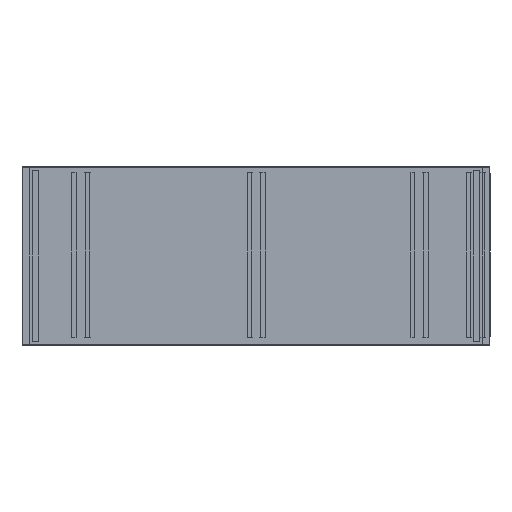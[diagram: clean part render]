
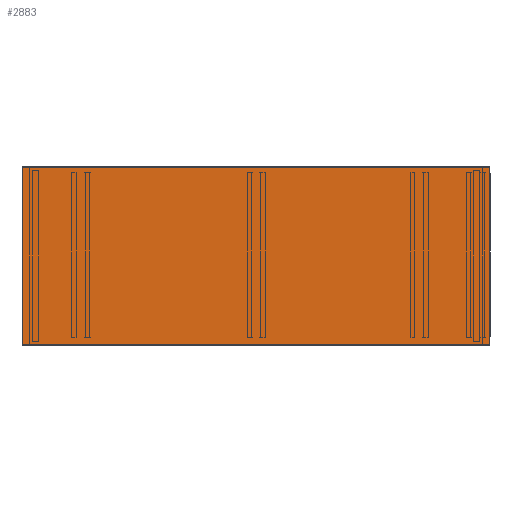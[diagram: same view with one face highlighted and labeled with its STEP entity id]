
A CAD part, left-side view. The second image highlights one B-rep face of the part: STEP entity #2883.
In plain terms, the highlighted planar face has unit normal (-1, 0, 0).
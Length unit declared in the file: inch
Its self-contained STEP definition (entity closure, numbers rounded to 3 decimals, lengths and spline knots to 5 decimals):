
#290=DIRECTION('',(0.,1.,0.));
#291=VECTOR('',#290,65.25);
#292=CARTESIAN_POINT('',(-0.06,-32.625,-12.371));
#293=LINE('',#292,#291);
#320=DIRECTION('',(0.,-1.,0.));
#321=VECTOR('',#320,65.25);
#322=CARTESIAN_POINT('',(-0.06,32.625,12.371));
#323=LINE('',#322,#321);
#1099=DIRECTION('',(0.,0.,-1.));
#1100=VECTOR('',#1099,24.742);
#1101=CARTESIAN_POINT('',(-0.06,32.625,12.371));
#1102=LINE('',#1101,#1100);
#1103=DIRECTION('',(0.,0.,1.));
#1104=VECTOR('',#1103,24.742);
#1105=CARTESIAN_POINT('',(-0.06,-32.625,-12.371));
#1106=LINE('',#1105,#1104);
#1319=CARTESIAN_POINT('',(-0.06,32.625,12.371));
#1320=CARTESIAN_POINT('',(-0.06,32.625,-12.371));
#1321=VERTEX_POINT('',#1319);
#1322=VERTEX_POINT('',#1320);
#1323=CARTESIAN_POINT('',(-0.06,-32.625,-12.371));
#1324=CARTESIAN_POINT('',(-0.06,-32.625,12.371));
#1325=VERTEX_POINT('',#1323);
#1326=VERTEX_POINT('',#1324);
#2872=CARTESIAN_POINT('',(-0.06,0.,0.));
#2873=DIRECTION('',(-1.,0.,0.));
#2874=DIRECTION('',(0.,0.,1.));
#2875=AXIS2_PLACEMENT_3D('',#2872,#2873,#2874);
#2876=PLANE('',#2875);
#2877=ORIENTED_EDGE('',*,*,#1772,.T.);
#2878=ORIENTED_EDGE('',*,*,#1800,.F.);
#2879=ORIENTED_EDGE('',*,*,#1830,.T.);
#2880=ORIENTED_EDGE('',*,*,#2386,.F.);
#2881=EDGE_LOOP('',(#2877,#2878,#2879,#2880));
#2882=FACE_OUTER_BOUND('',#2881,.F.);
#2883=ADVANCED_FACE('',(#2882),#2876,.T.);
#1772=EDGE_CURVE('',#1325,#1322,#293,.T.);
#1800=EDGE_CURVE('',#1321,#1322,#1102,.T.);
#1830=EDGE_CURVE('',#1321,#1326,#323,.T.);
#2386=EDGE_CURVE('',#1325,#1326,#1106,.T.);
